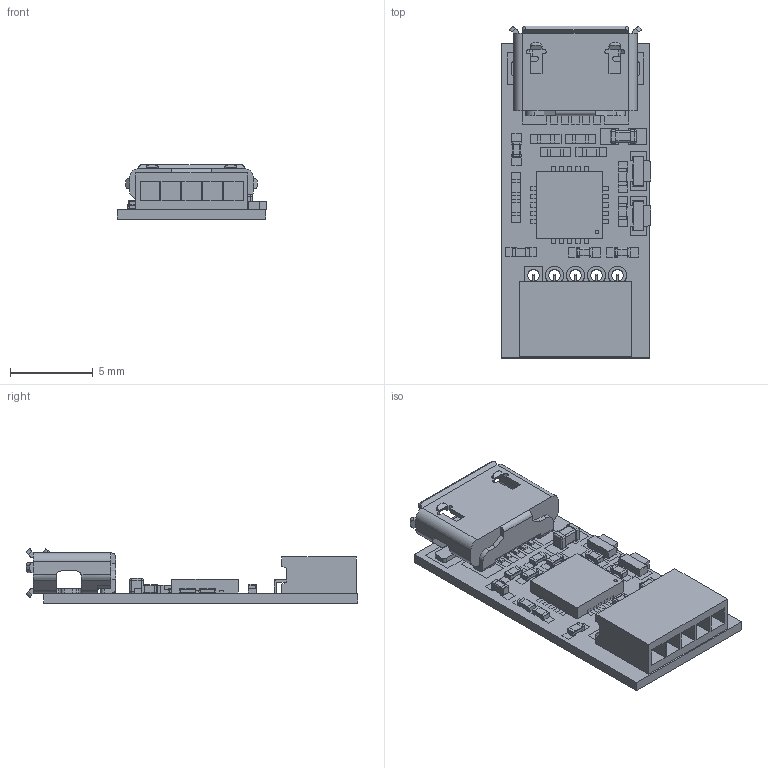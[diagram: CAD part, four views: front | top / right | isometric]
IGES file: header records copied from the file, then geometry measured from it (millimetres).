
Global section: file name: Filename.iges; native system: Open CASCADE 7.4; preprocessor: Open CASCADE IGES processor 7.4; date: 20200828.022145; units: millimetre
Bounding box: 9.06 x 20.07 x 3.3 mm (x, y, z)
Surface area: 984.1 mm2 (no closed solid volume)
Topology: 0 solids, 0 shells, 1407 faces, 7176 edges, 8890 vertices
Faces by surface type: plane 1195, revolution 212
